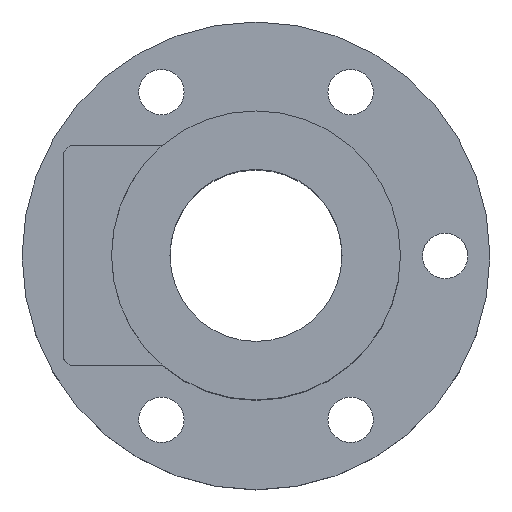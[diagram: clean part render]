
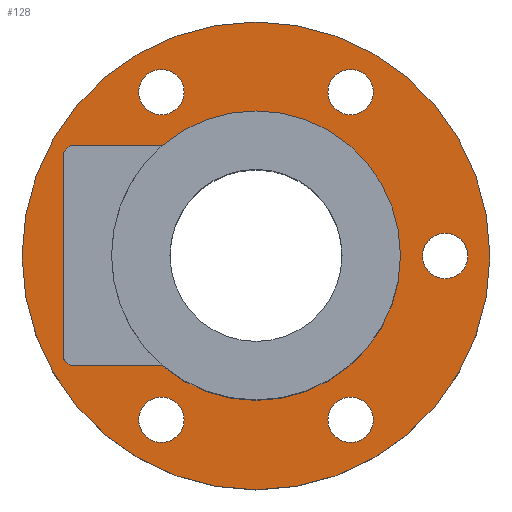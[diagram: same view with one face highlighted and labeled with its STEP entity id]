
A CAD part, top view. The second image highlights one B-rep face of the part: STEP entity #128.
In plain terms, the highlighted planar face has unit normal (0, 0, 1).
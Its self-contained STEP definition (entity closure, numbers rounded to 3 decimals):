
#97=PLANE('',#515);
#112=FACE_OUTER_BOUND('',#251,.T.);
#128=ADVANCED_FACE('',(#203,#204,#205,#112,#206,#207,#208),#97,.T.);
#203=FACE_BOUND('',#248,.T.);
#204=FACE_BOUND('',#249,.T.);
#205=FACE_BOUND('',#250,.T.);
#206=FACE_BOUND('',#252,.T.);
#207=FACE_BOUND('',#253,.T.);
#208=FACE_BOUND('',#254,.T.);
#248=EDGE_LOOP('',(#311));
#249=EDGE_LOOP('',(#312));
#250=EDGE_LOOP('',(#313));
#251=EDGE_LOOP('',(#314));
#252=EDGE_LOOP('',(#315));
#253=EDGE_LOOP('',(#316));
#254=EDGE_LOOP('',(#317));
#311=ORIENTED_EDGE('',*,*,#437,.F.);
#312=ORIENTED_EDGE('',*,*,#438,.F.);
#313=ORIENTED_EDGE('',*,*,#432,.F.);
#314=ORIENTED_EDGE('',*,*,#439,.T.);
#315=ORIENTED_EDGE('',*,*,#440,.F.);
#316=ORIENTED_EDGE('',*,*,#441,.F.);
#317=ORIENTED_EDGE('',*,*,#442,.F.);
#394=VERTEX_POINT('',#694);
#399=VERTEX_POINT('',#705);
#400=VERTEX_POINT('',#707);
#401=VERTEX_POINT('',#709);
#402=VERTEX_POINT('',#711);
#403=VERTEX_POINT('',#713);
#404=VERTEX_POINT('',#715);
#432=EDGE_CURVE('',#394,#394,#476,.T.);
#437=EDGE_CURVE('',#399,#399,#479,.T.);
#438=EDGE_CURVE('',#400,#400,#480,.T.);
#439=EDGE_CURVE('',#401,#401,#481,.T.);
#440=EDGE_CURVE('',#402,#402,#482,.T.);
#441=EDGE_CURVE('',#403,#403,#483,.T.);
#442=EDGE_CURVE('',#404,#404,#484,.T.);
#476=CIRCLE('',#505,21.);
#479=CIRCLE('',#509,3.3);
#480=CIRCLE('',#510,3.3);
#481=CIRCLE('',#511,34.);
#482=CIRCLE('',#512,3.3);
#483=CIRCLE('',#513,3.3);
#484=CIRCLE('',#514,3.3);
#505=AXIS2_PLACEMENT_3D('',#693,#564,#565);
#509=AXIS2_PLACEMENT_3D('',#704,#574,#575);
#510=AXIS2_PLACEMENT_3D('',#706,#576,#577);
#511=AXIS2_PLACEMENT_3D('',#708,#578,#579);
#512=AXIS2_PLACEMENT_3D('',#710,#580,#581);
#513=AXIS2_PLACEMENT_3D('',#712,#582,#583);
#514=AXIS2_PLACEMENT_3D('',#714,#584,#585);
#515=AXIS2_PLACEMENT_3D('',#716,#586,#587);
#564=DIRECTION('',(0.,0.,1.));
#565=DIRECTION('',(1.,0.,0.));
#574=DIRECTION('',(0.,0.,1.));
#575=DIRECTION('',(-0.5,-0.866,0.));
#576=DIRECTION('',(0.,0.,1.));
#577=DIRECTION('',(0.5,0.866,0.));
#578=DIRECTION('',(0.,0.,1.));
#579=DIRECTION('',(1.,0.,0.));
#580=DIRECTION('',(0.,0.,1.));
#581=DIRECTION('',(1.,0.,0.));
#582=DIRECTION('',(0.,0.,1.));
#583=DIRECTION('',(-1.,0.,0.));
#584=DIRECTION('',(0.,0.,1.));
#585=DIRECTION('',(0.5,-0.866,0.));
#586=DIRECTION('',(0.,0.,1.));
#587=DIRECTION('',(1.,0.,0.));
#693=CARTESIAN_POINT('',(0.,0.,12.));
#694=CARTESIAN_POINT('',(21.,0.,12.));
#704=CARTESIAN_POINT('',(13.75,-23.816,12.));
#705=CARTESIAN_POINT('',(12.1,-26.674,12.));
#706=CARTESIAN_POINT('',(-13.75,23.816,12.));
#707=CARTESIAN_POINT('',(-12.1,26.674,12.));
#708=CARTESIAN_POINT('',(0.,0.,12.));
#709=CARTESIAN_POINT('',(34.,0.,12.));
#710=CARTESIAN_POINT('',(13.75,23.816,12.));
#711=CARTESIAN_POINT('',(17.05,23.816,12.));
#712=CARTESIAN_POINT('',(-13.75,-23.816,12.));
#713=CARTESIAN_POINT('',(-17.05,-23.816,12.));
#714=CARTESIAN_POINT('',(27.5,0.,12.));
#715=CARTESIAN_POINT('',(29.15,-2.858,12.));
#716=CARTESIAN_POINT('',(0.,0.,12.));
